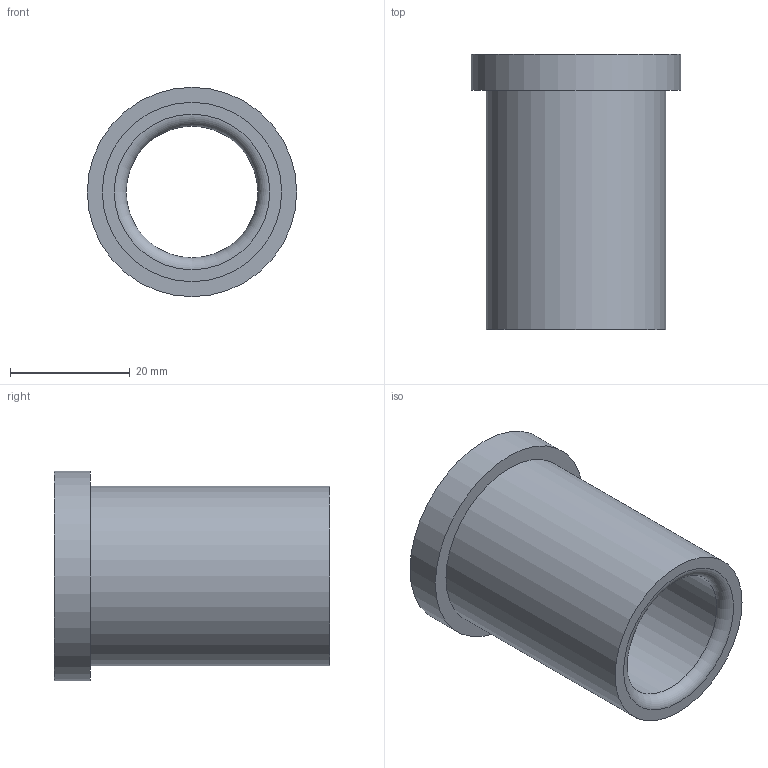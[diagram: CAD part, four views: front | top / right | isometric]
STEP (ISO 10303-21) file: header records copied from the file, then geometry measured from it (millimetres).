
FILE_DESCRIPTION(/* description */ ('STEP AP214'),/* implementation_level */ '2;1');
FILE_NAME(/* name */ '03_12_17930',/* time_stamp */ '2023-06-15T11:35:33+02:00',/* author */ ('License CC BY-ND 4.0'),/* organization */ ('CADENAS'),/* preprocessor_version */ 'ST-DEVELOPER v19.3',/* originating_system */ 'PARTsolutions',/* authorisation */ ' ');
FILE_SCHEMA (('AUTOMOTIVE_DESIGN {1 0 10303 214 3 1 1}'));
Length unit declared in the file: millimetre
Products named in the file (1): VA_Bushing_17930
Bounding box: 35 x 46 x 35 mm (x, y, z)
Volume: 16242.5 mm3; surface area: 8673.5 mm2
Topology: 1 solids, 1 shells, 10 faces, 16 edges, 10 vertices
Faces by surface type: cylinder 4, plane 4, torus 2
Full cylindrical faces by diameter (mm): 22 x1, 22.6 x1, 30 x1, 35 x1
Entity records: 302 total; most frequent: DIRECTION 42, CARTESIAN_POINT 31, AXIS2_PLACEMENT_3D 21, ORIENTED_EDGE 20, EDGE_LOOP 20, FACE_BOUND 20, EDGE_CURVE 10, VERTEX_POINT 10
